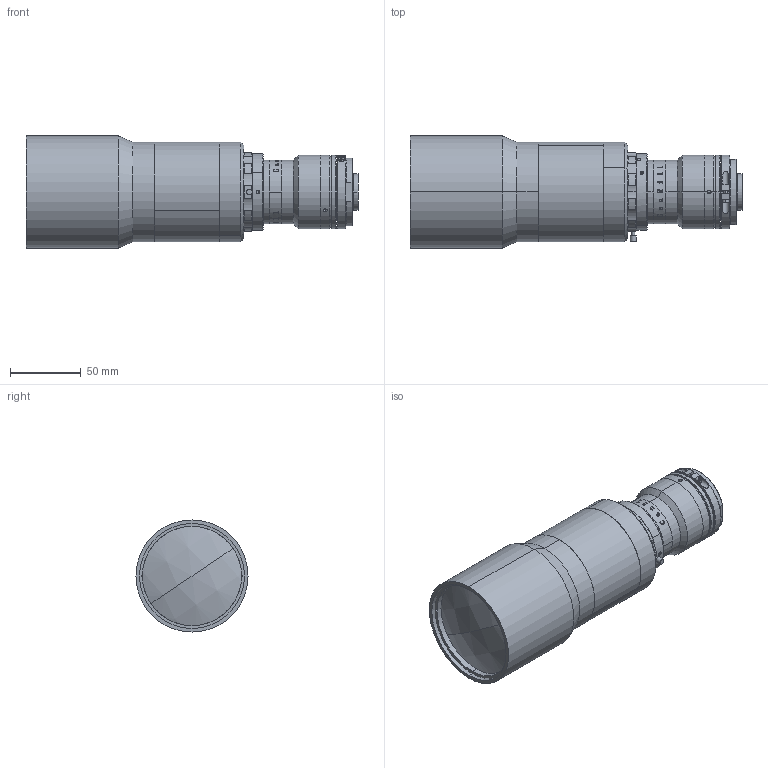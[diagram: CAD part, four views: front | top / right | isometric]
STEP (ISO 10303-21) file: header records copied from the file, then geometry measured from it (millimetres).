
FILE_DESCRIPTION (( 'STEP AP203' ), '1' );
FILE_NAME ('XF-PTL05519-C-VI.STEP', '2020-05-09T01:44:56', ( 'puyufan' ), ( '' ), 'SwSTEP 2.0', 'SolidWorks 2014', '' );
FILE_SCHEMA (( 'CONFIG_CONTROL_DESIGN' ));
Length unit declared in the file: millimetre
Products named in the file (1): XF-PTL05519-C-VI
Bounding box: 233.92 x 79 x 79 mm (x, y, z)
Surface area: 83650.1 mm2 (no closed solid volume)
Topology: 0 solids, 51 shells, 252 faces, 1291 edges, 1084 vertices
Faces by surface type: cylinder 126, plane 77, cone 31, torus 10, sphere 4, bspline 4
Entity records: 20729 total; most frequent: CARTESIAN_POINT 11093, DIRECTION 1854, ORIENTED_EDGE 1721, EDGE_CURVE 1289, VERTEX_POINT 1084, AXIS2_PLACEMENT_3D 720, CIRCLE 471, LINE 414
